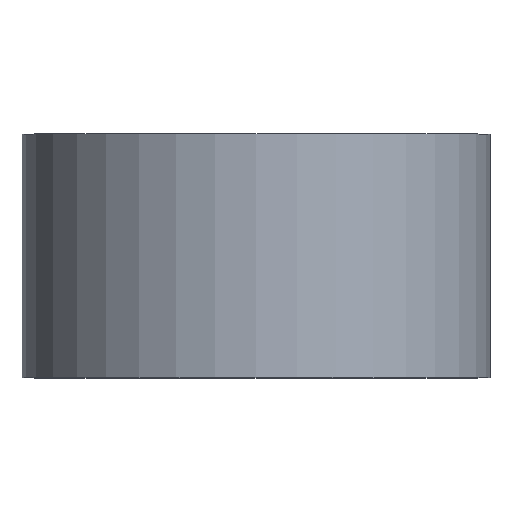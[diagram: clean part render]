
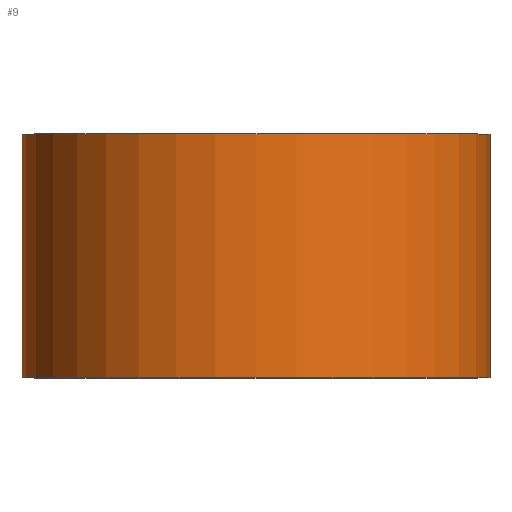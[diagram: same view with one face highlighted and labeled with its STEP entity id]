
A CAD part, top view. The second image highlights one B-rep face of the part: STEP entity #9.
In plain terms, the highlighted cylindrical face has radius 24 mm (diameter 48 mm), a partial arc.
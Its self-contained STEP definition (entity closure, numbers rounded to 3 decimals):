
#9 = ADVANCED_FACE ( 'NONE', ( #129 ), #36, .T. ) ;
#27 = EDGE_CURVE ( 'NONE', #49, #178, #99, .T. ) ;
#36 = CYLINDRICAL_SURFACE ( 'NONE', #172, 24. ) ;
#37 = CARTESIAN_POINT ( 'NONE',  ( 0., 0., 0. ) ) ;
#40 = EDGE_CURVE ( 'NONE', #226, #178, #81, .T. ) ;
#41 = LINE ( 'NONE', #283, #125 ) ;
#42 = DIRECTION ( 'NONE',  ( 0., 1., 0. ) ) ;
#47 = VERTEX_POINT ( 'NONE', #194 ) ;
#49 = VERTEX_POINT ( 'NONE', #85 ) ;
#55 = CARTESIAN_POINT ( 'NONE',  ( 0., 0., 0. ) ) ;
#61 = CARTESIAN_POINT ( 'NONE',  ( 0., 25., 0. ) ) ;
#73 = ORIENTED_EDGE ( 'NONE', *, *, #40, .T. ) ;
#75 = EDGE_CURVE ( 'NONE', #47, #49, #41, .T. ) ;
#79 = CARTESIAN_POINT ( 'NONE',  ( 24., 0., 0. ) ) ;
#81 = LINE ( 'NONE', #79, #159 ) ;
#85 = CARTESIAN_POINT ( 'NONE',  ( -24., 25., 0. ) ) ;
#86 = AXIS2_PLACEMENT_3D ( 'NONE', #61, #87, #173 ) ;
#87 = DIRECTION ( 'NONE',  ( 0., 1., 0. ) ) ;
#99 = CIRCLE ( 'NONE', #86, 24. ) ;
#105 = DIRECTION ( 'NONE',  ( 0., 1., 0. ) ) ;
#109 = EDGE_LOOP ( 'NONE', ( #251, #73, #213, #246 ) ) ;
#121 = EDGE_CURVE ( 'NONE', #47, #226, #167, .T. ) ;
#125 = VECTOR ( 'NONE', #190, 1000. ) ;
#129 = FACE_OUTER_BOUND ( 'NONE', #109, .T. ) ;
#159 = VECTOR ( 'NONE', #288, 1000. ) ;
#167 = CIRCLE ( 'NONE', #171, 24. ) ;
#171 = AXIS2_PLACEMENT_3D ( 'NONE', #55, #105, #239 ) ;
#172 = AXIS2_PLACEMENT_3D ( 'NONE', #37, #42, #201 ) ;
#173 = DIRECTION ( 'NONE',  ( -1., 0., 0. ) ) ;
#178 = VERTEX_POINT ( 'NONE', #198 ) ;
#190 = DIRECTION ( 'NONE',  ( 0., 1., 0. ) ) ;
#194 = CARTESIAN_POINT ( 'NONE',  ( -24., 0., 0. ) ) ;
#198 = CARTESIAN_POINT ( 'NONE',  ( 24., 25., 0. ) ) ;
#201 = DIRECTION ( 'NONE',  ( -1., 0., 0. ) ) ;
#213 = ORIENTED_EDGE ( 'NONE', *, *, #27, .F. ) ;
#226 = VERTEX_POINT ( 'NONE', #296 ) ;
#239 = DIRECTION ( 'NONE',  ( -1., 0., 0. ) ) ;
#246 = ORIENTED_EDGE ( 'NONE', *, *, #75, .F. ) ;
#251 = ORIENTED_EDGE ( 'NONE', *, *, #121, .T. ) ;
#283 = CARTESIAN_POINT ( 'NONE',  ( -24., 0., 0. ) ) ;
#288 = DIRECTION ( 'NONE',  ( 0., 1., 0. ) ) ;
#296 = CARTESIAN_POINT ( 'NONE',  ( 24., 0., 0. ) ) ;
